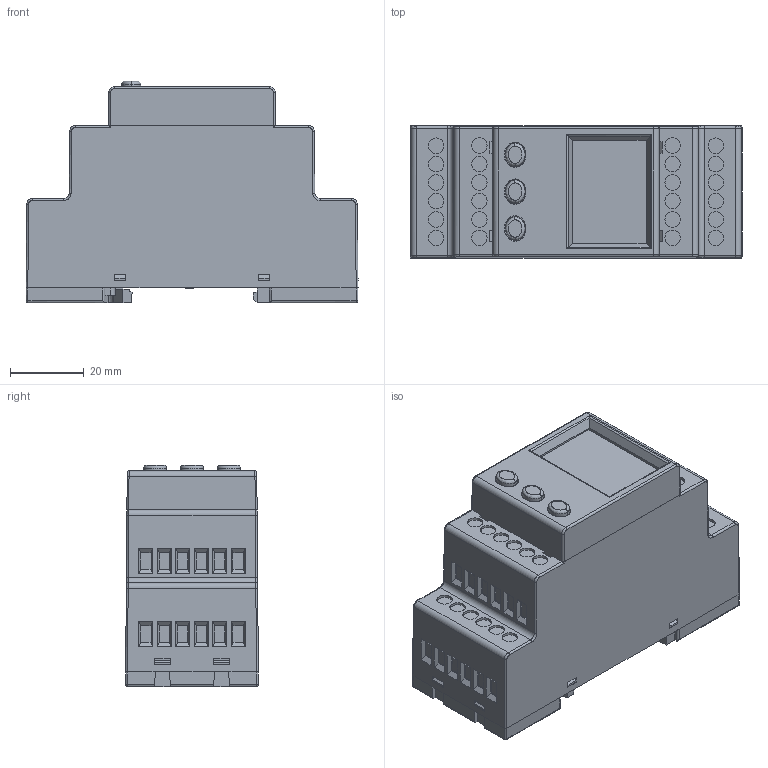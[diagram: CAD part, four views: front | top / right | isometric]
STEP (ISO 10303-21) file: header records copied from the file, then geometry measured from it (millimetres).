
FILE_DESCRIPTION (( 'STEP AP214' ), '1' );
FILE_NAME ('MRxzzR .STEP', '2021-01-25T14:03:18', ( '' ), ( '' ), 'SwSTEP 2.0', 'SolidWorks 2016', '' );
FILE_SCHEMA (( 'AUTOMOTIVE_DESIGN' ));
Length unit declared in the file: millimetre
Products named in the file (1): MRxzzR 
Bounding box: 90 x 36 x 60 mm (x, y, z)
Volume: 141779 mm3; surface area: 26205.8 mm2
Topology: 1 solids, 1 shells, 940 faces, 2441 edges, 1557 vertices
Faces by surface type: plane 672, bspline 137, cylinder 113, cone 18
Entity records: 36944 total; most frequent: CARTESIAN_POINT 14678, ORIENTED_EDGE 4882, DIRECTION 3912, EDGE_CURVE 2441, LINE 1900, VECTOR 1900, VERTEX_POINT 1557, EDGE_LOOP 1040
